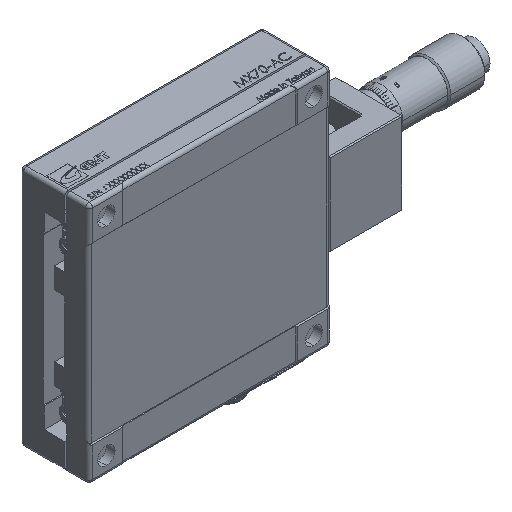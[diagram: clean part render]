
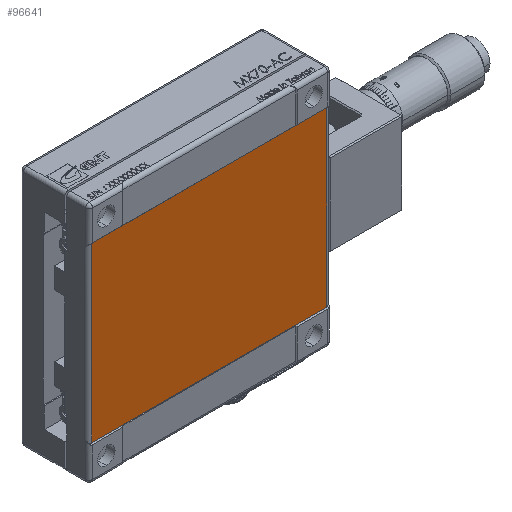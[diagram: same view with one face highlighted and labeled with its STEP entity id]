
A CAD part, isometric view. The second image highlights one B-rep face of the part: STEP entity #96641.
In plain terms, the highlighted planar face has unit normal (0, -1, 0).
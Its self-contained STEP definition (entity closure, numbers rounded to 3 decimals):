
#682 = AXIS2_PLACEMENT_3D ( 'NONE', #100650, #100653, #100655 ) ;
#83100 = LINE ( 'NONE', #86815, #84242 ) ;
#83101 = LINE ( 'NONE', #86817, #84244 ) ;
#83102 = LINE ( 'NONE', #86819, #84245 ) ;
#83103 = LINE ( 'NONE', #86821, #84246 ) ;
#83777 = FACE_OUTER_BOUND ( 'NONE', #95411, .T. ) ;
#84242 = VECTOR ( 'NONE', #86816, 1000. ) ;
#84244 = VECTOR ( 'NONE', #86818, 1000. ) ;
#84245 = VECTOR ( 'NONE', #86820, 1000. ) ;
#84246 = VECTOR ( 'NONE', #86822, 1000. ) ;
#86815 = CARTESIAN_POINT ( 'NONE',  ( 35.374, -10.094, 25. ) ) ;
#86816 = DIRECTION ( 'NONE',  ( 0., 0., 1. ) ) ;
#86817 = CARTESIAN_POINT ( 'NONE',  ( 36.374, -10.094, -25. ) ) ;
#86818 = DIRECTION ( 'NONE',  ( -1., 0., 0. ) ) ;
#86819 = CARTESIAN_POINT ( 'NONE',  ( 36.374, -10.094, 25. ) ) ;
#86820 = DIRECTION ( 'NONE',  ( -1., 0., 0. ) ) ;
#86821 = CARTESIAN_POINT ( 'NONE',  ( -32.626, -10.094, 25. ) ) ;
#86822 = DIRECTION ( 'NONE',  ( 0., 0., -1. ) ) ;
#89450 = CARTESIAN_POINT ( 'NONE',  ( 35.374, -10.094, -25. ) ) ;
#89452 = CARTESIAN_POINT ( 'NONE',  ( -32.626, -10.094, -25. ) ) ;
#89454 = CARTESIAN_POINT ( 'NONE',  ( 35.374, -10.094, 25. ) ) ;
#89455 = CARTESIAN_POINT ( 'NONE',  ( -32.626, -10.094, 25. ) ) ;
#90948 = EDGE_CURVE ( 'NONE', #93989, #93995, #83100, .T. ) ;
#90949 = EDGE_CURVE ( 'NONE', #93989, #93992, #83101, .T. ) ;
#90950 = EDGE_CURVE ( 'NONE', #93995, #93997, #83102, .T. ) ;
#90951 = EDGE_CURVE ( 'NONE', #93997, #93992, #83103, .T. ) ;
#93989 = VERTEX_POINT ( 'NONE', #89450 ) ;
#93992 = VERTEX_POINT ( 'NONE', #89452 ) ;
#93995 = VERTEX_POINT ( 'NONE', #89454 ) ;
#93997 = VERTEX_POINT ( 'NONE', #89455 ) ;
#94156 = ORIENTED_EDGE ( 'NONE', *, *, #90949, .F. ) ;
#94158 = ORIENTED_EDGE ( 'NONE', *, *, #90950, .T. ) ;
#94160 = ORIENTED_EDGE ( 'NONE', *, *, #90948, .T. ) ;
#94162 = ORIENTED_EDGE ( 'NONE', *, *, #90951, .T. ) ;
#95411 = EDGE_LOOP ( 'NONE', ( #94156, #94160, #94158, #94162 ) ) ;
#96641 = ADVANCED_FACE ( 'NONE', ( #83777 ), #100648, .F. ) ;
#100648 = PLANE ( 'NONE',  #682 ) ;
#100650 = CARTESIAN_POINT ( 'NONE',  ( 36.374, -10.094, 25. ) ) ;
#100653 = DIRECTION ( 'NONE',  ( 0., 1., 0. ) ) ;
#100655 = DIRECTION ( 'NONE',  ( 0., 0., 1. ) ) ;
